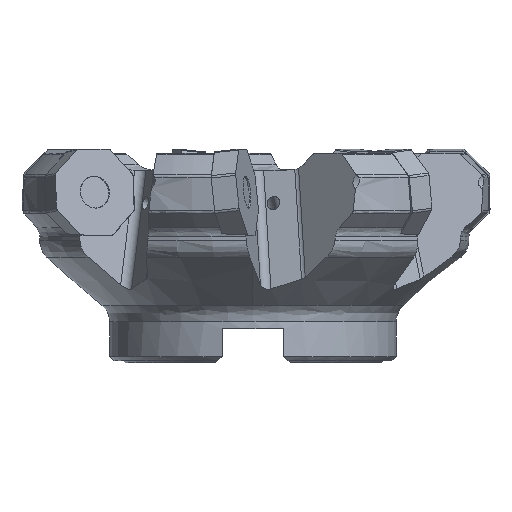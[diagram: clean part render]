
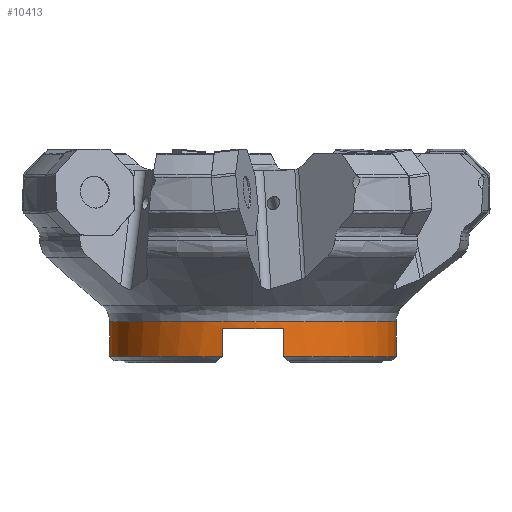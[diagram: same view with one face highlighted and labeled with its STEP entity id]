
A CAD part, front view. The second image highlights one B-rep face of the part: STEP entity #10413.
In plain terms, the highlighted cylindrical face has radius 33.5 mm (diameter 67 mm), a partial arc.
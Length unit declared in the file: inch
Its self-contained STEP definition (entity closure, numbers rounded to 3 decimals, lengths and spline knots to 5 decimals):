
#189 = EDGE_CURVE ( 'NONE', #9459, #6992, #12500, .T. ) ;
#266 = CIRCLE ( 'NONE', #11759, 1.3189 ) ;
#284 = CARTESIAN_POINT ( 'NONE',  ( 0., 0., 0.31496 ) ) ;
#419 = CIRCLE ( 'NONE', #10552, 1.3189 ) ;
#441 = ORIENTED_EDGE ( 'NONE', *, *, #3312, .T. ) ;
#597 = VERTEX_POINT ( 'NONE', #12221 ) ;
#790 = DIRECTION ( 'NONE',  ( 1., 0., 0. ) ) ;
#1365 = DIRECTION ( 'NONE',  ( 0., 0., 1. ) ) ;
#1466 = VECTOR ( 'NONE', #10055, 39.37008 ) ;
#1829 = ORIENTED_EDGE ( 'NONE', *, *, #9553, .T. ) ;
#1985 = LINE ( 'NONE', #10600, #13902 ) ;
#2400 = EDGE_CURVE ( 'NONE', #8070, #10751, #6855, .T. ) ;
#2509 = EDGE_CURVE ( 'NONE', #10751, #2543, #8801, .T. ) ;
#2543 = VERTEX_POINT ( 'NONE', #8284 ) ;
#2724 = AXIS2_PLACEMENT_3D ( 'NONE', #13773, #6342, #790 ) ;
#3312 = EDGE_CURVE ( 'NONE', #12225, #8070, #266, .T. ) ;
#4079 = DIRECTION ( 'NONE',  ( 1., 0., 0. ) ) ;
#4162 = CARTESIAN_POINT ( 'NONE',  ( -1.3189, 0., 0.05906 ) ) ;
#4499 = AXIS2_PLACEMENT_3D ( 'NONE', #7804, #13236, #9987 ) ;
#4633 = ORIENTED_EDGE ( 'NONE', *, *, #7621, .F. ) ;
#5183 = EDGE_CURVE ( 'NONE', #6992, #597, #7920, .T. ) ;
#5254 = ORIENTED_EDGE ( 'NONE', *, *, #189, .T. ) ;
#5434 = EDGE_LOOP ( 'NONE', ( #4633, #5254, #13751, #1829, #7647, #441, #5515, #8988 ) ) ;
#5515 = ORIENTED_EDGE ( 'NONE', *, *, #2400, .T. ) ;
#5562 = VERTEX_POINT ( 'NONE', #9298 ) ;
#5853 = DIRECTION ( 'NONE',  ( 0., 0., 1. ) ) ;
#5877 = CARTESIAN_POINT ( 'NONE',  ( 1.3189, 0., 1.96862 ) ) ;
#6342 = DIRECTION ( 'NONE',  ( 0., 0., -1. ) ) ;
#6765 = DIRECTION ( 'NONE',  ( 0., 0., 1. ) ) ;
#6855 = LINE ( 'NONE', #5877, #1466 ) ;
#6944 = CARTESIAN_POINT ( 'NONE',  ( -0.28346, -1.28808, 0.05906 ) ) ;
#6977 = LINE ( 'NONE', #8133, #11640 ) ;
#6992 = VERTEX_POINT ( 'NONE', #6944 ) ;
#7621 = EDGE_CURVE ( 'NONE', #9459, #2543, #6977, .T. ) ;
#7647 = ORIENTED_EDGE ( 'NONE', *, *, #8306, .T. ) ;
#7804 = CARTESIAN_POINT ( 'NONE',  ( 0., 0., 1.96862 ) ) ;
#7920 = LINE ( 'NONE', #8771, #9342 ) ;
#8070 = VERTEX_POINT ( 'NONE', #10754 ) ;
#8133 = CARTESIAN_POINT ( 'NONE',  ( -1.3189, 0., 1.96862 ) ) ;
#8284 = CARTESIAN_POINT ( 'NONE',  ( -1.3189, 0., 0.38065 ) ) ;
#8306 = EDGE_CURVE ( 'NONE', #5562, #12225, #1985, .T. ) ;
#8608 = DIRECTION ( 'NONE',  ( 1., 0., 0. ) ) ;
#8771 = CARTESIAN_POINT ( 'NONE',  ( -0.28346, -1.28808, 1.96862 ) ) ;
#8801 = CIRCLE ( 'NONE', #2724, 1.3189 ) ;
#8861 = FACE_OUTER_BOUND ( 'NONE', #5434, .T. ) ;
#8988 = ORIENTED_EDGE ( 'NONE', *, *, #2509, .T. ) ;
#9298 = CARTESIAN_POINT ( 'NONE',  ( 0.28346, -1.28808, 0.31496 ) ) ;
#9342 = VECTOR ( 'NONE', #1365, 39.37008 ) ;
#9459 = VERTEX_POINT ( 'NONE', #4162 ) ;
#9533 = DIRECTION ( 'NONE',  ( 0., 0., -1. ) ) ;
#9553 = EDGE_CURVE ( 'NONE', #597, #5562, #419, .T. ) ;
#9906 = CARTESIAN_POINT ( 'NONE',  ( 1.3189, 0., 0.38065 ) ) ;
#9987 = DIRECTION ( 'NONE',  ( 1., 0., 0. ) ) ;
#10055 = DIRECTION ( 'NONE',  ( 0., 0., 1. ) ) ;
#10413 = ADVANCED_FACE ( 'NONE', ( #8861 ), #12248, .T. ) ;
#10552 = AXIS2_PLACEMENT_3D ( 'NONE', #284, #6765, #8608 ) ;
#10600 = CARTESIAN_POINT ( 'NONE',  ( 0.28346, -1.28808, 1.96862 ) ) ;
#10751 = VERTEX_POINT ( 'NONE', #9906 ) ;
#10754 = CARTESIAN_POINT ( 'NONE',  ( 1.3189, 0., 0.05906 ) ) ;
#10914 = AXIS2_PLACEMENT_3D ( 'NONE', #13170, #12250, #10989 ) ;
#10989 = DIRECTION ( 'NONE',  ( 1., 0., 0. ) ) ;
#11447 = CARTESIAN_POINT ( 'NONE',  ( 0.28346, -1.28808, 0.05906 ) ) ;
#11640 = VECTOR ( 'NONE', #5853, 39.37008 ) ;
#11759 = AXIS2_PLACEMENT_3D ( 'NONE', #13743, #13807, #4079 ) ;
#12221 = CARTESIAN_POINT ( 'NONE',  ( -0.28346, -1.28808, 0.31496 ) ) ;
#12225 = VERTEX_POINT ( 'NONE', #11447 ) ;
#12248 = CYLINDRICAL_SURFACE ( 'NONE', #4499, 1.3189 ) ;
#12250 = DIRECTION ( 'NONE',  ( 0., 0., 1. ) ) ;
#12500 = CIRCLE ( 'NONE', #10914, 1.3189 ) ;
#13170 = CARTESIAN_POINT ( 'NONE',  ( 0., 0., 0.05906 ) ) ;
#13236 = DIRECTION ( 'NONE',  ( 0., 0., 1. ) ) ;
#13743 = CARTESIAN_POINT ( 'NONE',  ( 0., 0., 0.05906 ) ) ;
#13751 = ORIENTED_EDGE ( 'NONE', *, *, #5183, .T. ) ;
#13773 = CARTESIAN_POINT ( 'NONE',  ( 0., 0., 0.38065 ) ) ;
#13807 = DIRECTION ( 'NONE',  ( 0., 0., 1. ) ) ;
#13902 = VECTOR ( 'NONE', #9533, 39.37008 ) ;
